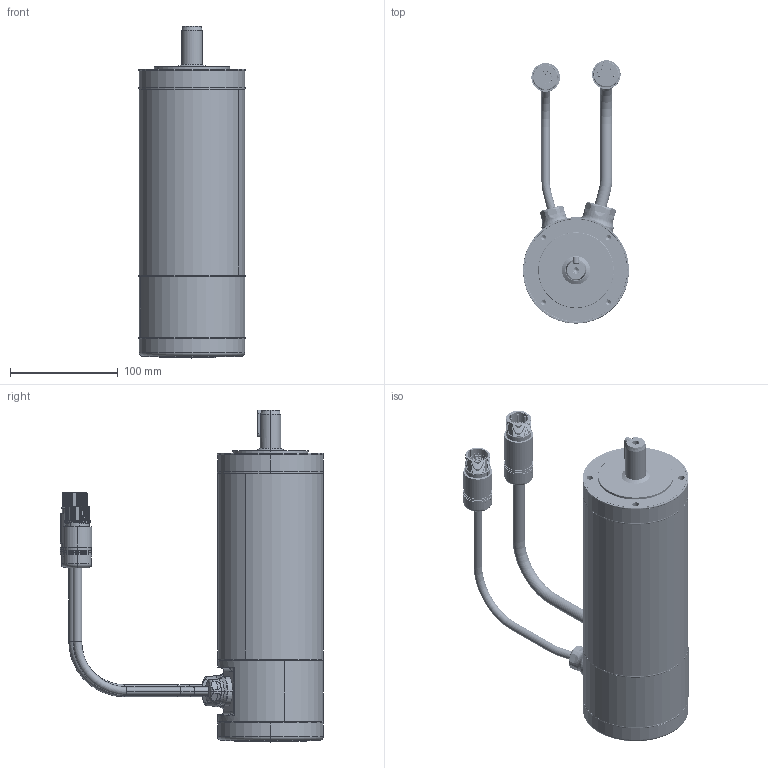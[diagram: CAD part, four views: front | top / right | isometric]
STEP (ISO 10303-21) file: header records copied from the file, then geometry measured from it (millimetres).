
FILE_DESCRIPTION (( 'STEP AP203' ), '1' );
FILE_NAME ('999-001-2159-M532-GK07-14W9-N03S-N.STEP', '2020-08-26T13:44:11', ( '' ), ( '' ), 'SwSTEP 2.0', 'SolidWorks 2019', '' );
FILE_SCHEMA (( 'CONFIG_CONTROL_DESIGN' ));
Length unit declared in the file: inch
Products named in the file (1): 999-001-2159-M532-GK07-14W9-N03S-N
Bounding box: 98.41 x 243.86 x 307.77 mm (x, y, z)
Volume: 829149.3 mm3; surface area: 316138.6 mm2
Topology: 48 solids, 48 shells, 4010 faces, 10287 edges, 6694 vertices
Faces by surface type: cylinder 1340, plane 1264, bspline 797, torus 393, cone 122, sphere 94
Entity records: 293314 total; most frequent: CARTESIAN_POINT 202252, ORIENTED_EDGE 20458, DIRECTION 17210, EDGE_CURVE 10229, VERTEX_POINT 6694, AXIS2_PLACEMENT_3D 6678, EDGE_LOOP 4483, ADVANCED_FACE 4010
